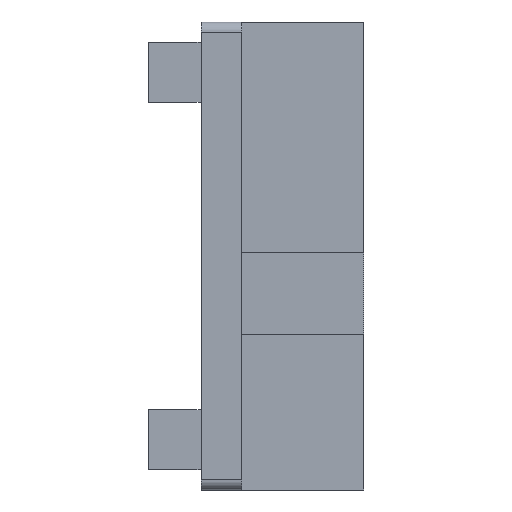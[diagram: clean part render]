
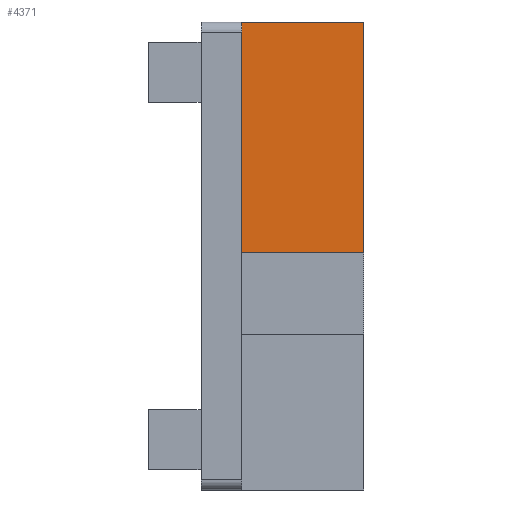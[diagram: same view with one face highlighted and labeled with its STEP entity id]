
A CAD part, left-side view. The second image highlights one B-rep face of the part: STEP entity #4371.
In plain terms, the highlighted planar face has unit normal (-1, 0, 0).
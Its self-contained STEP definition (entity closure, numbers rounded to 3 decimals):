
#613 = PLANE('',#614);
#614 = AXIS2_PLACEMENT_3D('',#615,#616,#617);
#615 = CARTESIAN_POINT('',(-11.5,-2.6,11.5));
#616 = DIRECTION('',(0.,0.,-1.));
#617 = DIRECTION('',(-1.,0.,0.));
#1201 = VERTEX_POINT('',#1202);
#1202 = CARTESIAN_POINT('',(-10.9,-4.6,11.5));
#1216 = PLANE('',#1217);
#1217 = AXIS2_PLACEMENT_3D('',#1218,#1219,#1220);
#1218 = CARTESIAN_POINT('',(-10.5,-4.6,-11.5));
#1219 = DIRECTION('',(0.,1.,0.));
#1220 = DIRECTION('',(0.,0.,1.));
#1228 = EDGE_CURVE('',#1229,#1201,#1231,.T.);
#1229 = VERTEX_POINT('',#1230);
#1230 = CARTESIAN_POINT('',(-10.9,-10.6,11.5));
#1231 = SURFACE_CURVE('',#1232,(#1236,#1243),.PCURVE_S1.);
#1232 = LINE('',#1233,#1234);
#1233 = CARTESIAN_POINT('',(-10.9,-33.603,11.5));
#1234 = VECTOR('',#1235,1.);
#1235 = DIRECTION('',(0.,1.,0.));
#1236 = PCURVE('',#613,#1237);
#1237 = DEFINITIONAL_REPRESENTATION('',(#1238),#1242);
#1238 = LINE('',#1239,#1240);
#1239 = CARTESIAN_POINT('',(-0.6,-31.003));
#1240 = VECTOR('',#1241,1.);
#1241 = DIRECTION('',(0.,1.));
#1242 = ( GEOMETRIC_REPRESENTATION_CONTEXT(2) 
PARAMETRIC_REPRESENTATION_CONTEXT() REPRESENTATION_CONTEXT('2D SPACE',''
  ) );
#1243 = PCURVE('',#1244,#1249);
#1244 = PLANE('',#1245);
#1245 = AXIS2_PLACEMENT_3D('',#1246,#1247,#1248);
#1246 = CARTESIAN_POINT('',(-10.9,-33.603,11.5));
#1247 = DIRECTION('',(1.,0.,0.));
#1248 = DIRECTION('',(0.,0.,-1.));
#1249 = DEFINITIONAL_REPRESENTATION('',(#1250),#1254);
#1250 = LINE('',#1251,#1252);
#1251 = CARTESIAN_POINT('',(0.,0.));
#1252 = VECTOR('',#1253,1.);
#1253 = DIRECTION('',(0.,1.));
#1254 = ( GEOMETRIC_REPRESENTATION_CONTEXT(2) 
PARAMETRIC_REPRESENTATION_CONTEXT() REPRESENTATION_CONTEXT('2D SPACE',''
  ) );
#1272 = PLANE('',#1273);
#1273 = AXIS2_PLACEMENT_3D('',#1274,#1275,#1276);
#1274 = CARTESIAN_POINT('',(0.,-10.6,0.));
#1275 = DIRECTION('',(0.,1.,0.));
#1276 = DIRECTION('',(0.,0.,1.));
#2647 = CYLINDRICAL_SURFACE('',#2648,0.8);
#2648 = AXIS2_PLACEMENT_3D('',#2649,#2650,#2651);
#2649 = CARTESIAN_POINT('',(-10.334,0.,-0.396));
#2650 = DIRECTION('',(0.,1.,0.));
#2651 = DIRECTION('',(1.,0.,0.));
#4160 = VERTEX_POINT('',#4161);
#4161 = CARTESIAN_POINT('',(-10.9,-4.6,0.17));
#4351 = EDGE_CURVE('',#1201,#4160,#4352,.T.);
#4352 = SURFACE_CURVE('',#4353,(#4357,#4364),.PCURVE_S1.);
#4353 = LINE('',#4354,#4355);
#4354 = CARTESIAN_POINT('',(-10.9,-4.6,11.5));
#4355 = VECTOR('',#4356,1.);
#4356 = DIRECTION('',(0.,0.,-1.));
#4357 = PCURVE('',#1216,#4358);
#4358 = DEFINITIONAL_REPRESENTATION('',(#4359),#4363);
#4359 = LINE('',#4360,#4361);
#4360 = CARTESIAN_POINT('',(23.,-0.4));
#4361 = VECTOR('',#4362,1.);
#4362 = DIRECTION('',(-1.,0.));
#4363 = ( GEOMETRIC_REPRESENTATION_CONTEXT(2) 
PARAMETRIC_REPRESENTATION_CONTEXT() REPRESENTATION_CONTEXT('2D SPACE',''
  ) );
#4364 = PCURVE('',#1244,#4365);
#4365 = DEFINITIONAL_REPRESENTATION('',(#4366),#4370);
#4366 = LINE('',#4367,#4368);
#4367 = CARTESIAN_POINT('',(0.,29.003));
#4368 = VECTOR('',#4369,1.);
#4369 = DIRECTION('',(1.,0.));
#4370 = ( GEOMETRIC_REPRESENTATION_CONTEXT(2) 
PARAMETRIC_REPRESENTATION_CONTEXT() REPRESENTATION_CONTEXT('2D SPACE',''
  ) );
#4371 = ADVANCED_FACE('',(#4372),#1244,.F.);
#4372 = FACE_BOUND('',#4373,.F.);
#4373 = EDGE_LOOP('',(#4374,#4397,#4416,#4417));
#4374 = ORIENTED_EDGE('',*,*,#4375,.F.);
#4375 = EDGE_CURVE('',#4376,#1229,#4378,.T.);
#4376 = VERTEX_POINT('',#4377);
#4377 = CARTESIAN_POINT('',(-10.9,-10.6,0.17));
#4378 = SURFACE_CURVE('',#4379,(#4383,#4390),.PCURVE_S1.);
#4379 = LINE('',#4380,#4381);
#4380 = CARTESIAN_POINT('',(-10.9,-10.6,11.5));
#4381 = VECTOR('',#4382,1.);
#4382 = DIRECTION('',(0.,0.,1.));
#4383 = PCURVE('',#1244,#4384);
#4384 = DEFINITIONAL_REPRESENTATION('',(#4385),#4389);
#4385 = LINE('',#4386,#4387);
#4386 = CARTESIAN_POINT('',(0.,23.003));
#4387 = VECTOR('',#4388,1.);
#4388 = DIRECTION('',(-1.,0.));
#4389 = ( GEOMETRIC_REPRESENTATION_CONTEXT(2) 
PARAMETRIC_REPRESENTATION_CONTEXT() REPRESENTATION_CONTEXT('2D SPACE',''
  ) );
#4390 = PCURVE('',#1272,#4391);
#4391 = DEFINITIONAL_REPRESENTATION('',(#4392),#4396);
#4392 = LINE('',#4393,#4394);
#4393 = CARTESIAN_POINT('',(11.5,-10.9));
#4394 = VECTOR('',#4395,1.);
#4395 = DIRECTION('',(1.,0.));
#4396 = ( GEOMETRIC_REPRESENTATION_CONTEXT(2) 
PARAMETRIC_REPRESENTATION_CONTEXT() REPRESENTATION_CONTEXT('2D SPACE',''
  ) );
#4397 = ORIENTED_EDGE('',*,*,#4398,.T.);
#4398 = EDGE_CURVE('',#4376,#4160,#4399,.T.);
#4399 = SURFACE_CURVE('',#4400,(#4404,#4410),.PCURVE_S1.);
#4400 = LINE('',#4401,#4402);
#4401 = CARTESIAN_POINT('',(-10.9,0.,0.17));
#4402 = VECTOR('',#4403,1.);
#4403 = DIRECTION('',(0.,1.,0.));
#4404 = PCURVE('',#1244,#4405);
#4405 = DEFINITIONAL_REPRESENTATION('',(#4406),#4409);
#4406 = B_SPLINE_CURVE_WITH_KNOTS('',1,(#4407,#4408),.UNSPECIFIED.,.F.,
  .F.,(2,2),(-11.2,-4.),.PIECEWISE_BEZIER_KNOTS.);
#4407 = CARTESIAN_POINT('',(11.33,22.403));
#4408 = CARTESIAN_POINT('',(11.33,29.603));
#4409 = ( GEOMETRIC_REPRESENTATION_CONTEXT(2) 
PARAMETRIC_REPRESENTATION_CONTEXT() REPRESENTATION_CONTEXT('2D SPACE',''
  ) );
#4410 = PCURVE('',#2647,#4411);
#4411 = DEFINITIONAL_REPRESENTATION('',(#4412),#4415);
#4412 = B_SPLINE_CURVE_WITH_KNOTS('',1,(#4413,#4414),.UNSPECIFIED.,.F.,
  .F.,(2,2),(-11.2,-4.),.PIECEWISE_BEZIER_KNOTS.);
#4413 = CARTESIAN_POINT('',(-2.356,-11.2));
#4414 = CARTESIAN_POINT('',(-2.356,-4.));
#4415 = ( GEOMETRIC_REPRESENTATION_CONTEXT(2) 
PARAMETRIC_REPRESENTATION_CONTEXT() REPRESENTATION_CONTEXT('2D SPACE',''
  ) );
#4416 = ORIENTED_EDGE('',*,*,#4351,.F.);
#4417 = ORIENTED_EDGE('',*,*,#1228,.F.);
